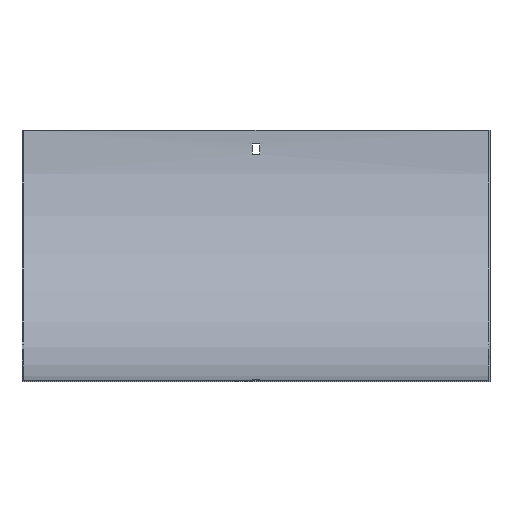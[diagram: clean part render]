
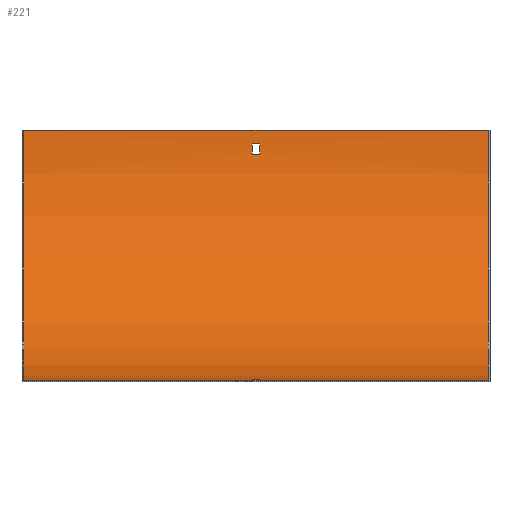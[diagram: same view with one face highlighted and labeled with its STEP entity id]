
A CAD part, front view. The second image highlights one B-rep face of the part: STEP entity #221.
In plain terms, the highlighted cylindrical face has radius 217.5 mm (diameter 435 mm), a partial arc.
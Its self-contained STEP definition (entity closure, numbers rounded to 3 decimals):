
#7 = DIRECTION ( 'NONE',  ( 0., 0., -1. ) ) ;
#15 = DIRECTION ( 'NONE',  ( 1., 0., 0. ) ) ;
#23 = ORIENTED_EDGE ( 'NONE', *, *, #502, .F. ) ;
#24 = DIRECTION ( 'NONE',  ( 1., 0., 0. ) ) ;
#25 = CARTESIAN_POINT ( 'NONE',  ( 203.5, -207., -217.169 ) ) ;
#36 = CARTESIAN_POINT ( 'NONE',  ( 3.25, -1.831, -12. ) ) ;
#38 = EDGE_CURVE ( 'NONE', #596, #228, #113, .T. ) ;
#43 = AXIS2_PLACEMENT_3D ( 'NONE', #437, #442, #404 ) ;
#44 = ORIENTED_EDGE ( 'NONE', *, *, #277, .F. ) ;
#50 = ORIENTED_EDGE ( 'NONE', *, *, #217, .F. ) ;
#61 = FACE_BOUND ( 'NONE', #520, .T. ) ;
#63 = CARTESIAN_POINT ( 'NONE',  ( 202., -1.5, 0. ) ) ;
#64 = CARTESIAN_POINT ( 'NONE',  ( 203.5, -1.831, -12. ) ) ;
#72 = EDGE_CURVE ( 'NONE', #508, #184, #166, .T. ) ;
#80 = LINE ( 'NONE', #25, #224 ) ;
#86 = DIRECTION ( 'NONE',  ( 0., 0., 1. ) ) ;
#87 = EDGE_CURVE ( 'NONE', #245, #508, #331, .T. ) ;
#92 = ORIENTED_EDGE ( 'NONE', *, *, #327, .F. ) ;
#103 = DIRECTION ( 'NONE',  ( 0., 0., 1. ) ) ;
#105 = ORIENTED_EDGE ( 'NONE', *, *, #183, .F. ) ;
#113 = LINE ( 'NONE', #578, #603 ) ;
#114 = ORIENTED_EDGE ( 'NONE', *, *, #371, .T. ) ;
#120 = CARTESIAN_POINT ( 'NONE',  ( 202., -1.5, 0. ) ) ;
#140 = VERTEX_POINT ( 'NONE', #225 ) ;
#141 = DIRECTION ( 'NONE',  ( -1., 0., 0. ) ) ;
#148 = EDGE_LOOP ( 'NONE', ( #23, #92, #556, #590 ) ) ;
#153 = FACE_OUTER_BOUND ( 'NONE', #148, .T. ) ;
#160 = EDGE_CURVE ( 'NONE', #483, #596, #399, .T. ) ;
#165 = DIRECTION ( 'NONE',  ( -1., 0., 0. ) ) ;
#166 = LINE ( 'NONE', #120, #353 ) ;
#169 = VECTOR ( 'NONE', #24, 1000. ) ;
#170 = CARTESIAN_POINT ( 'NONE',  ( -3.25, -219., 0. ) ) ;
#178 = VECTOR ( 'NONE', #276, 1000. ) ;
#183 = EDGE_CURVE ( 'NONE', #140, #267, #222, .T. ) ;
#184 = VERTEX_POINT ( 'NONE', #235 ) ;
#194 = CARTESIAN_POINT ( 'NONE',  ( 3.25, -219., 0. ) ) ;
#204 = DIRECTION ( 'NONE',  ( 1., 0., 0. ) ) ;
#208 = DIRECTION ( 'NONE',  ( -1., 0., 0. ) ) ;
#213 = LINE ( 'NONE', #392, #416 ) ;
#214 = VERTEX_POINT ( 'NONE', #515 ) ;
#217 = EDGE_CURVE ( 'NONE', #267, #260, #333, .T. ) ;
#221 = ADVANCED_FACE ( 'NONE', ( #61, #153, #339 ), #242, .F. ) ;
#222 = CIRCLE ( 'NONE', #584, 217.5 ) ;
#224 = VECTOR ( 'NONE', #208, 1000. ) ;
#225 = CARTESIAN_POINT ( 'NONE',  ( 3.25, -2.516, -21. ) ) ;
#228 = VERTEX_POINT ( 'NONE', #324 ) ;
#232 = CARTESIAN_POINT ( 'NONE',  ( -3.25, -1.831, -12. ) ) ;
#235 = CARTESIAN_POINT ( 'NONE',  ( -202., -1.5, 0. ) ) ;
#237 = AXIS2_PLACEMENT_3D ( 'NONE', #524, #141, #272 ) ;
#240 = DIRECTION ( 'NONE',  ( -1., 0., 0. ) ) ;
#242 = CYLINDRICAL_SURFACE ( 'NONE', #237, 217.5 ) ;
#245 = VERTEX_POINT ( 'NONE', #606 ) ;
#247 = CARTESIAN_POINT ( 'NONE',  ( -202., -219., -217.5 ) ) ;
#252 = DIRECTION ( 'NONE',  ( 0., 0., 1. ) ) ;
#257 = CIRCLE ( 'NONE', #350, 217.5 ) ;
#260 = VERTEX_POINT ( 'NONE', #232 ) ;
#264 = DIRECTION ( 'NONE',  ( 0., 0., -1. ) ) ;
#267 = VERTEX_POINT ( 'NONE', #36 ) ;
#272 = DIRECTION ( 'NONE',  ( 0., 0., 1. ) ) ;
#273 = ORIENTED_EDGE ( 'NONE', *, *, #160, .T. ) ;
#276 = DIRECTION ( 'NONE',  ( -1., 0., 0. ) ) ;
#277 = EDGE_CURVE ( 'NONE', #260, #214, #257, .T. ) ;
#280 = CARTESIAN_POINT ( 'NONE',  ( -202., -219., 0. ) ) ;
#283 = DIRECTION ( 'NONE',  ( 1., 0., 0. ) ) ;
#298 = CIRCLE ( 'NONE', #43, 217.5 ) ;
#304 = CARTESIAN_POINT ( 'NONE',  ( 203.5, -2.516, -21. ) ) ;
#309 = DIRECTION ( 'NONE',  ( 1., 0., 0. ) ) ;
#311 = AXIS2_PLACEMENT_3D ( 'NONE', #170, #496, #264 ) ;
#324 = CARTESIAN_POINT ( 'NONE',  ( 3.25, -198., -216.484 ) ) ;
#327 = EDGE_CURVE ( 'NONE', #245, #555, #213, .T. ) ;
#331 = CIRCLE ( 'NONE', #462, 217.5 ) ;
#332 = CARTESIAN_POINT ( 'NONE',  ( -3.25, -207., -217.169 ) ) ;
#333 = LINE ( 'NONE', #64, #178 ) ;
#339 = FACE_BOUND ( 'NONE', #414, .T. ) ;
#345 = DIRECTION ( 'NONE',  ( -1., 0., 0. ) ) ;
#350 = AXIS2_PLACEMENT_3D ( 'NONE', #538, #165, #252 ) ;
#353 = VECTOR ( 'NONE', #240, 1000. ) ;
#371 = EDGE_CURVE ( 'NONE', #434, #483, #80, .T. ) ;
#374 = AXIS2_PLACEMENT_3D ( 'NONE', #280, #204, #103 ) ;
#392 = CARTESIAN_POINT ( 'NONE',  ( 202., -219., -217.5 ) ) ;
#399 = CIRCLE ( 'NONE', #311, 217.5 ) ;
#404 = DIRECTION ( 'NONE',  ( 0., 0., 1. ) ) ;
#414 = EDGE_LOOP ( 'NONE', ( #114, #273, #607, #451 ) ) ;
#416 = VECTOR ( 'NONE', #345, 1000. ) ;
#434 = VERTEX_POINT ( 'NONE', #475 ) ;
#437 = CARTESIAN_POINT ( 'NONE',  ( 3.25, -219., 0. ) ) ;
#442 = DIRECTION ( 'NONE',  ( -1., 0., 0. ) ) ;
#446 = CIRCLE ( 'NONE', #374, 217.5 ) ;
#451 = ORIENTED_EDGE ( 'NONE', *, *, #559, .T. ) ;
#459 = ORIENTED_EDGE ( 'NONE', *, *, #593, .F. ) ;
#462 = AXIS2_PLACEMENT_3D ( 'NONE', #498, #309, #86 ) ;
#475 = CARTESIAN_POINT ( 'NONE',  ( 3.25, -207., -217.169 ) ) ;
#483 = VERTEX_POINT ( 'NONE', #332 ) ;
#484 = LINE ( 'NONE', #304, #169 ) ;
#496 = DIRECTION ( 'NONE',  ( 1., 0., 0. ) ) ;
#498 = CARTESIAN_POINT ( 'NONE',  ( 202., -219., 0. ) ) ;
#502 = EDGE_CURVE ( 'NONE', #555, #184, #446, .T. ) ;
#508 = VERTEX_POINT ( 'NONE', #63 ) ;
#515 = CARTESIAN_POINT ( 'NONE',  ( -3.25, -2.516, -21. ) ) ;
#520 = EDGE_LOOP ( 'NONE', ( #44, #50, #105, #459 ) ) ;
#524 = CARTESIAN_POINT ( 'NONE',  ( 203.5, -219., 0. ) ) ;
#538 = CARTESIAN_POINT ( 'NONE',  ( -3.25, -219., 0. ) ) ;
#555 = VERTEX_POINT ( 'NONE', #247 ) ;
#556 = ORIENTED_EDGE ( 'NONE', *, *, #87, .T. ) ;
#559 = EDGE_CURVE ( 'NONE', #228, #434, #298, .T. ) ;
#578 = CARTESIAN_POINT ( 'NONE',  ( 203.5, -198., -216.484 ) ) ;
#584 = AXIS2_PLACEMENT_3D ( 'NONE', #194, #15, #7 ) ;
#588 = CARTESIAN_POINT ( 'NONE',  ( -3.25, -198., -216.484 ) ) ;
#590 = ORIENTED_EDGE ( 'NONE', *, *, #72, .T. ) ;
#593 = EDGE_CURVE ( 'NONE', #214, #140, #484, .T. ) ;
#596 = VERTEX_POINT ( 'NONE', #588 ) ;
#603 = VECTOR ( 'NONE', #283, 1000. ) ;
#606 = CARTESIAN_POINT ( 'NONE',  ( 202., -219., -217.5 ) ) ;
#607 = ORIENTED_EDGE ( 'NONE', *, *, #38, .T. ) ;
